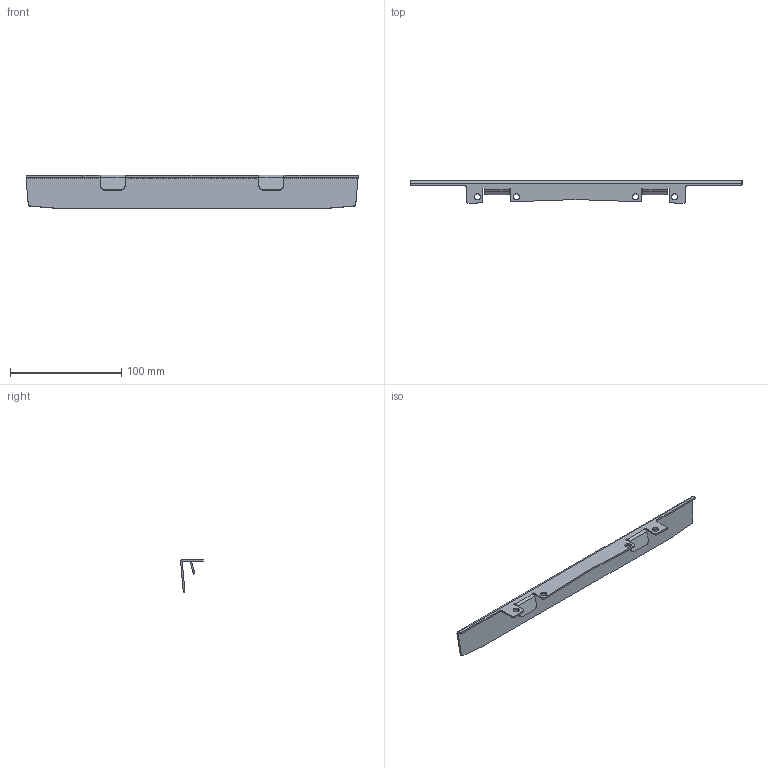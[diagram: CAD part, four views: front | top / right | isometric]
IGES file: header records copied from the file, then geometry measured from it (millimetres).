
Start section: SolidWorks IGES file using analytic representation for surfaces
Global section: file name: G:\3DRAW\EKI\3Dcam\ARCA IEC\Solidpart\RCS_ARCA_4030.IGS; native system: SolidWorks 2014; preprocessor: SolidWorks 2014; author: KennethW; date: 150729.100706; units: millimetre
Bounding box: 298 x 20.35 x 29.92 mm (x, y, z)
Surface area: 25592.9 mm2 (no closed solid volume)
Topology: 0 solids, 0 shells, 79 faces, 946 edges, 946 vertices
Faces by surface type: bspline 47, revolution 32
